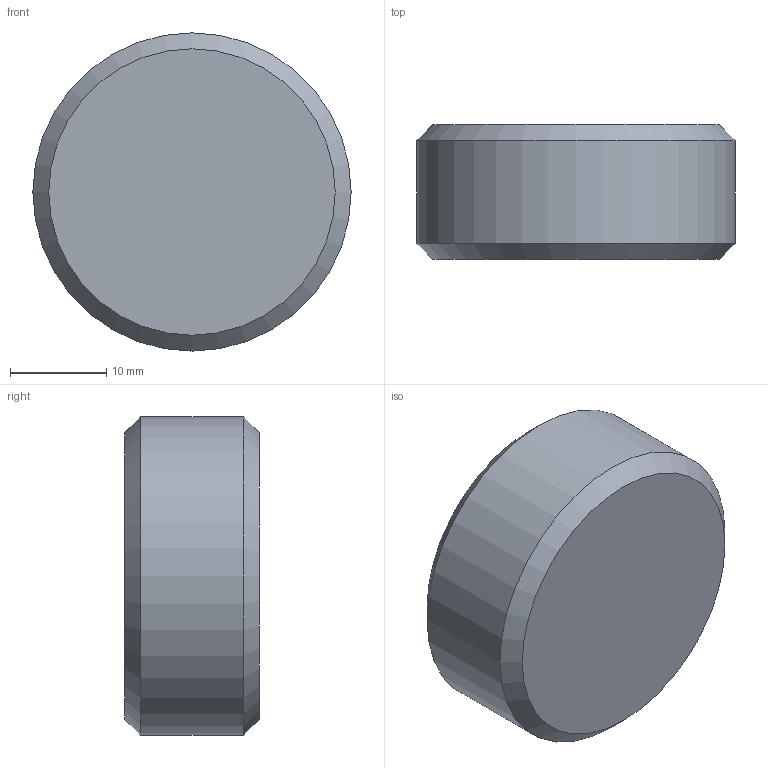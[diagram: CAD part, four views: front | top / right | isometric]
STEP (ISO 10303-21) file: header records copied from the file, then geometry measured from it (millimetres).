
FILE_DESCRIPTION(/* description */ (''),/* implementation_level */ '2;1');
FILE_NAME(/* name */ 'C:/Users/drich/Desktop/cad/Plugs/BSPT Pipe Plugs/Steel/SF-BSPT-1 v1.step',/* time_stamp */ '2020-01-10T12:59:33-06:00',/* author */ (''),/* organization */ (''),/* preprocessor_version */ 'ST-DEVELOPER v18',/* originating_system */ 'Autodesk Translation Framework v8.12.0.6',/* authorisation */ '');
FILE_SCHEMA (('AUTOMOTIVE_DESIGN { 1 0 10303 214 3 1 1 }','INTEGRATED_CNC_SCHEMA'));
Length unit declared in the file: inch
Products named in the file (1): SF-BSPT-1
Bounding box: 33.07 x 14 x 33.07 mm (x, y, z)
Volume: 9491.3 mm3; surface area: 3488 mm2
Topology: 1 solids, 1 shells, 13 faces, 35 edges, 25 vertices
Faces by surface type: plane 9, cone 3, cylinder 1
Full cylindrical faces by diameter (mm): 33.069 x1
Entity records: 439 total; most frequent: CARTESIAN_POINT 98, ORIENTED_EDGE 70, DIRECTION 58, EDGE_CURVE 35, VERTEX_POINT 25, AXIS2_PLACEMENT_3D 21, LINE 16, VECTOR 16
